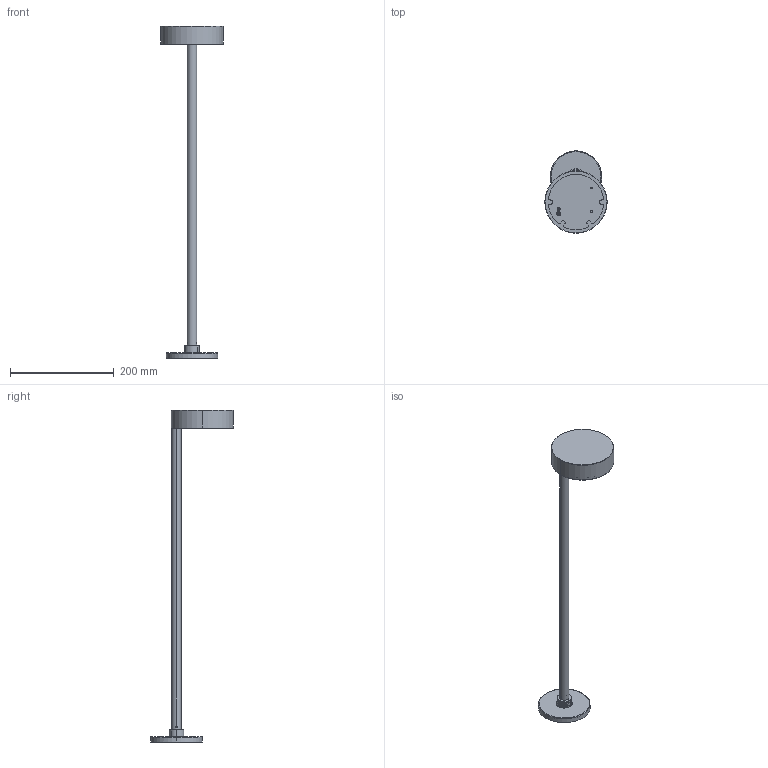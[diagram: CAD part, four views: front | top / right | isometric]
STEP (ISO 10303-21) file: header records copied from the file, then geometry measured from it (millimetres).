
FILE_DESCRIPTION (( 'STEP AP214' ), '1' );
FILE_NAME ('SKAT-H2075000GR.STEP', '2026-01-15T08:34:44', ( '' ), ( '' ), 'SwSTEP 2.0', 'SolidWorks 2025', '' );
FILE_SCHEMA (( 'AUTOMOTIVE_DESIGN' ));
Length unit declared in the file: millimetre
Products named in the file (7): 转接头; SKAT-H2075000GR; 防水圈.1; 灯杆; 002-6; 灯体.2.1; 玻璃.1.4
Assembly tree (6 placements, depth 2):
  SKAT-H2075000GR
    灯体.2.1
    玻璃.1.4
    灯杆
    转接头
    防水圈.1
    002-6
Bounding box: 120 x 160 x 640.5 mm (x, y, z)
Volume: 302018.2 mm3; surface area: 170944.7 mm2
Topology: 8 solids, 8 shells, 494 faces, 1226 edges, 772 vertices
Faces by surface type: cylinder 193, cone 136, plane 118, bspline 39, torus 8
Entity records: 17194 total; most frequent: CARTESIAN_POINT 5106, DIRECTION 2567, ORIENTED_EDGE 2452, EDGE_CURVE 1226, AXIS2_PLACEMENT_3D 1024, VERTEX_POINT 772, CIRCLE 560, EDGE_LOOP 542
